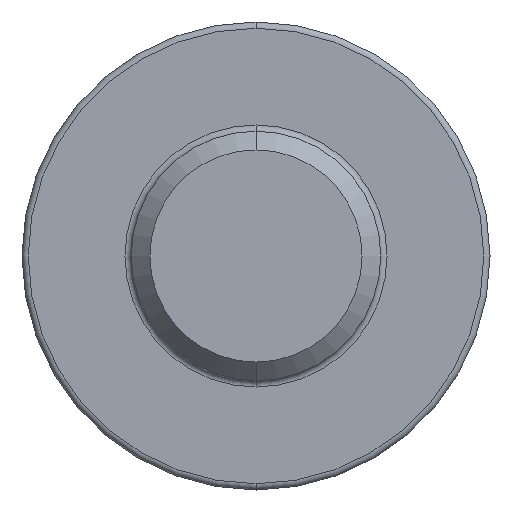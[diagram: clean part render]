
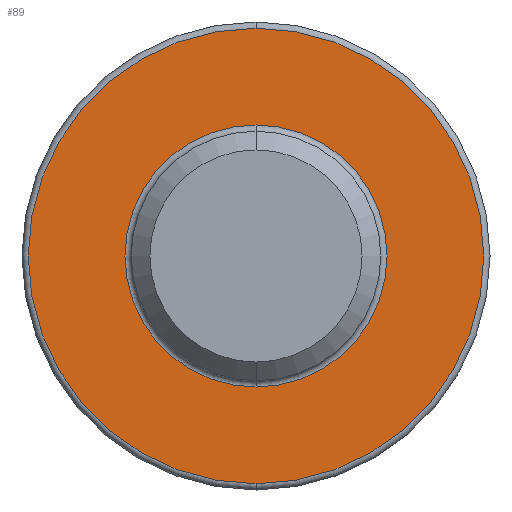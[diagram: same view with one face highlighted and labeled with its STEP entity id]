
A CAD part, front view. The second image highlights one B-rep face of the part: STEP entity #89.
In plain terms, the highlighted planar face has unit normal (0, -1, 0).
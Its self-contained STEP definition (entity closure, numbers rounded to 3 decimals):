
#5 = ORIENTED_EDGE ( 'NONE', *, *, #177, .T. ) ;
#43 = CARTESIAN_POINT ( 'NONE',  ( 0., -2.4, 0. ) ) ;
#49 = EDGE_CURVE ( 'NONE', #600, #836, #362, .T. ) ;
#51 = ORIENTED_EDGE ( 'NONE', *, *, #231, .T. ) ;
#78 = CARTESIAN_POINT ( 'NONE',  ( 2., -2.4, 0. ) ) ;
#89 = ADVANCED_FACE ( 'NONE', ( #752, #283 ), #677, .F. ) ;
#100 = AXIS2_PLACEMENT_3D ( 'NONE', #43, #317, #509 ) ;
#118 = CARTESIAN_POINT ( 'NONE',  ( 0., -2.4, 0. ) ) ;
#121 = EDGE_CURVE ( 'NONE', #338, #856, #188, .T. ) ;
#137 = CARTESIAN_POINT ( 'NONE',  ( 0., -2.4, -3.65 ) ) ;
#141 = DIRECTION ( 'NONE',  ( 0., 0., 1. ) ) ;
#147 = ORIENTED_EDGE ( 'NONE', *, *, #121, .T. ) ;
#173 = CIRCLE ( 'NONE', #510, 2.1 ) ;
#177 = EDGE_CURVE ( 'NONE', #836, #600, #725, .T. ) ;
#184 = CARTESIAN_POINT ( 'NONE',  ( 0., -2.4, 0. ) ) ;
#188 = CIRCLE ( 'NONE', #670, 2.1 ) ;
#228 = ORIENTED_EDGE ( 'NONE', *, *, #49, .T. ) ;
#231 = EDGE_CURVE ( 'NONE', #856, #338, #173, .T. ) ;
#238 = DIRECTION ( 'NONE',  ( 0., 0., 1. ) ) ;
#283 = FACE_OUTER_BOUND ( 'NONE', #313, .T. ) ;
#313 = EDGE_LOOP ( 'NONE', ( #228, #5 ) ) ;
#317 = DIRECTION ( 'NONE',  ( 0., -1., 0. ) ) ;
#327 = DIRECTION ( 'NONE',  ( 0., -1., 0. ) ) ;
#338 = VERTEX_POINT ( 'NONE', #819 ) ;
#362 = CIRCLE ( 'NONE', #100, 3.65 ) ;
#372 = CARTESIAN_POINT ( 'NONE',  ( 0., -2.4, 3.65 ) ) ;
#452 = AXIS2_PLACEMENT_3D ( 'NONE', #184, #327, #802 ) ;
#509 = DIRECTION ( 'NONE',  ( 0., 0., 1. ) ) ;
#510 = AXIS2_PLACEMENT_3D ( 'NONE', #823, #646, #238 ) ;
#545 = DIRECTION ( 'NONE',  ( 0., 1., 0. ) ) ;
#566 = AXIS2_PLACEMENT_3D ( 'NONE', #78, #545, #141 ) ;
#600 = VERTEX_POINT ( 'NONE', #372 ) ;
#602 = DIRECTION ( 'NONE',  ( 0., 0., 1. ) ) ;
#646 = DIRECTION ( 'NONE',  ( 0., 1., 0. ) ) ;
#670 = AXIS2_PLACEMENT_3D ( 'NONE', #118, #726, #602 ) ;
#677 = PLANE ( 'NONE',  #566 ) ;
#679 = CARTESIAN_POINT ( 'NONE',  ( 0., -2.4, 2.1 ) ) ;
#725 = CIRCLE ( 'NONE', #452, 3.65 ) ;
#726 = DIRECTION ( 'NONE',  ( 0., 1., 0. ) ) ;
#752 = FACE_BOUND ( 'NONE', #868, .T. ) ;
#802 = DIRECTION ( 'NONE',  ( 0., 0., 1. ) ) ;
#819 = CARTESIAN_POINT ( 'NONE',  ( 0., -2.4, -2.1 ) ) ;
#823 = CARTESIAN_POINT ( 'NONE',  ( 0., -2.4, 0. ) ) ;
#836 = VERTEX_POINT ( 'NONE', #137 ) ;
#856 = VERTEX_POINT ( 'NONE', #679 ) ;
#868 = EDGE_LOOP ( 'NONE', ( #51, #147 ) ) ;
